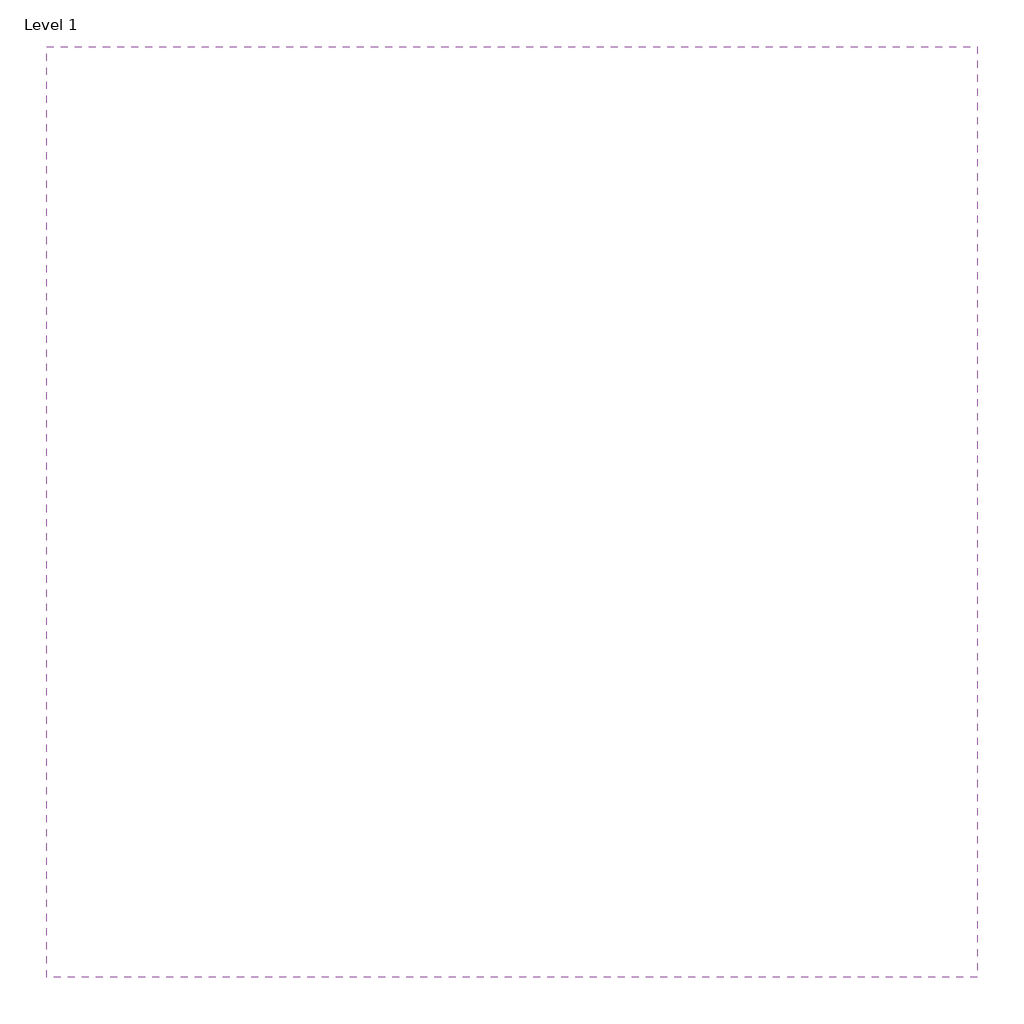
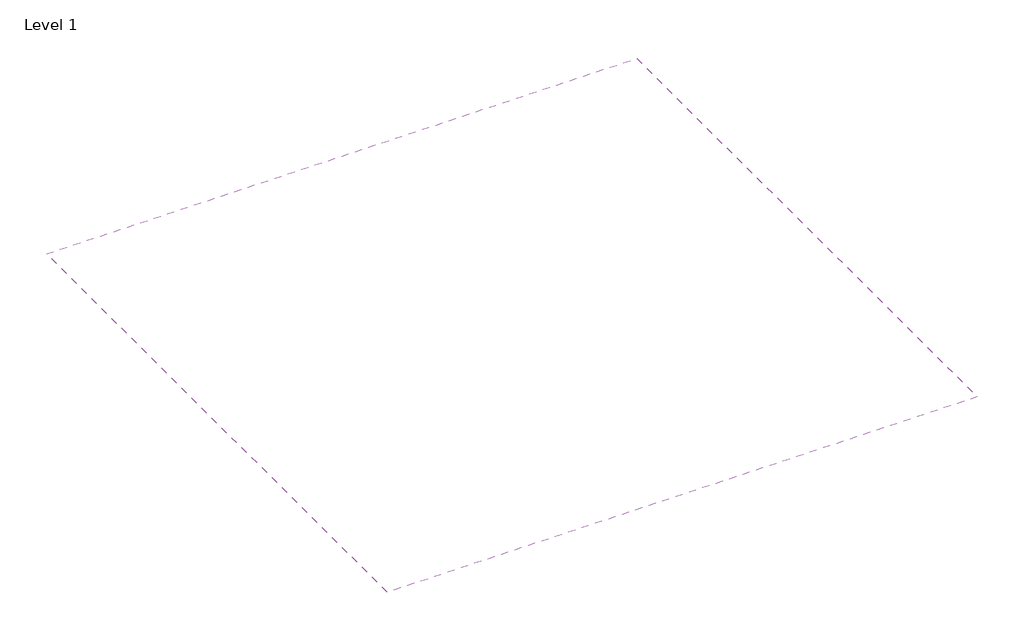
# One storey: 1 covering.
"""IFC4 building model written with IfcOpenShell, lengths in millimetres."""

from ifc_helpers import new_model, si_unit, frame, origin, place, context, project, spatial, polyline, outline, extrude, element, save

model = new_model("IFC4")

# Units and contexts
model_context = context("Model", 3, world=origin())
ifc_project = project(units=[si_unit("LENGTHUNIT", "METRE", prefix="MILLI")], contexts=[model_context])

# Site, building, storey
site = spatial("IfcSite", under=ifc_project)
building = spatial("IfcBuilding", under=site)
storey = spatial("IfcBuildingStorey", under=building, Name="Level 1", Elevation=0.0)

# Covering
placement = place(None, origin())
element("IfcCovering", 1, ObjectType="NBS_ArmstrongCeilingsLtd_UnitModularSuspendedCeilingSystem_SaharaVector-Prelude24Exposed_600x600x19mm_GB", at=placement, inside=storey, context=model_context, shape_type="SweptSolid", body=[
    extrude(outline(polyline([(2500.0, 2500.0), (2500.0, 0.0), (0.0, 0.0), (0.0, 2500.0), (2500.0, 2500.0)])), frame((0.0, 0.0, 2600.0), z_axis=(0.0, 0.0, 1.0), x_axis=(1.0, 0.0, 0.0)), (0.0, 0.0, 1.0), 53.0),
])

save(model, "model.ifc")
